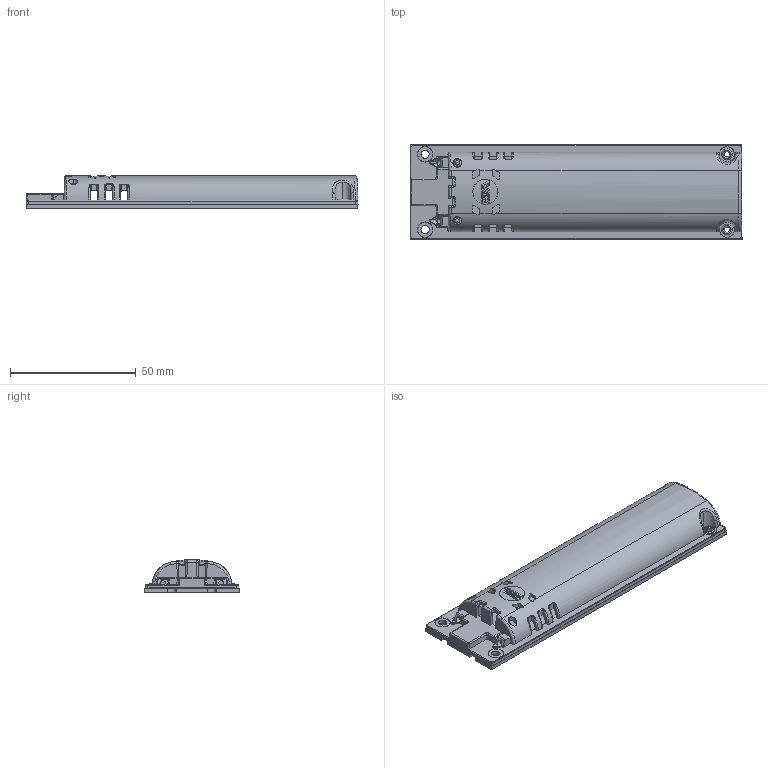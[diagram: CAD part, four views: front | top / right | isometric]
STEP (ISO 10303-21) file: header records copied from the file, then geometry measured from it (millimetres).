
FILE_DESCRIPTION(('Creo Elements/Direct Modeling STEP Export'),'2;1');
FILE_NAME('READYLINE_S-E.stp','2021-11-29T16:38:35',(''),(''),'Creo Elements/Direct Modeling STEP processor for AP214 (Solid Model)','Creo Elements/Direct Modeling 20.0E 23-Apr-2019 (C) Parametric Technology GmbH','');
FILE_SCHEMA(('AUTOMOTIVE_DESIGN { 1 0 10303 214 1 1 1 1 }'));
Products named in the file (3): diffusore; p1; READYLINE_S-E
Assembly tree (3 placements, depth 2):
  READYLINE_S-E
    p1  x2
    diffusore
Bounding box: 132 x 37.4 x 13 mm (x, y, z)
Volume: 18147.9 mm3; surface area: 22826.1 mm2
Topology: 3 solids, 3 shells, 608 faces, 1755 edges, 1133 vertices
Faces by surface type: plane 278, cylinder 215, bspline 70, torus 30, cone 10, sphere 5
Entity records: 41306 total; most frequent: CARTESIAN_POINT 28820, ORIENTED_EDGE 2960, DIRECTION 2076, EDGE_CURVE 1480, VERTEX_POINT 955, AXIS2_PLACEMENT_3D 717, VECTOR 642, LINE 642
